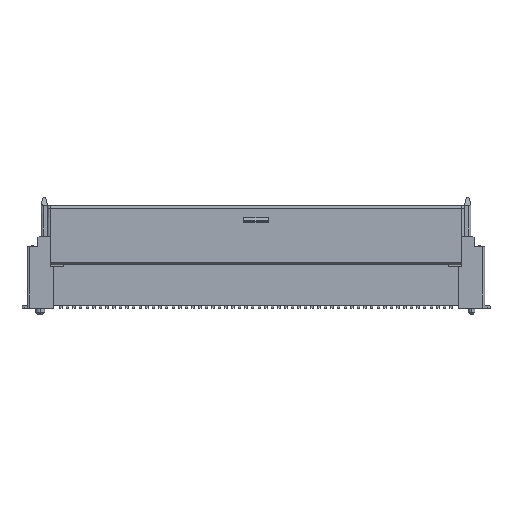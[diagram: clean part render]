
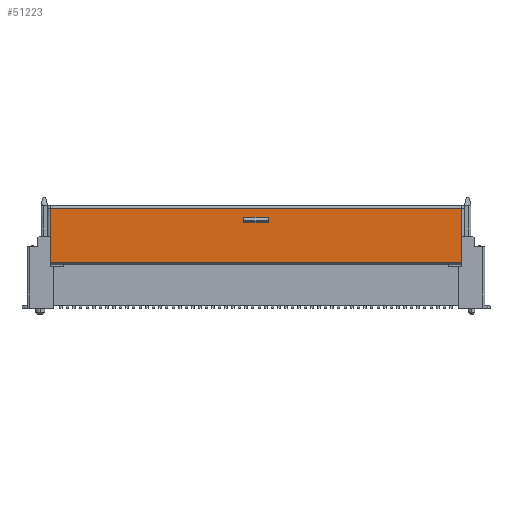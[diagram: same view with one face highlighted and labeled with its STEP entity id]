
A CAD part, top view. The second image highlights one B-rep face of the part: STEP entity #51223.
In plain terms, the highlighted planar face has unit normal (0, 0, 1).
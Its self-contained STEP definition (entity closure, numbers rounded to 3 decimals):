
#501 = VECTOR ( 'NONE', #14603, 1000. ) ;
#1696 = CARTESIAN_POINT ( 'NONE',  ( 24.9, 8.5, 2.23 ) ) ;
#3843 = CARTESIAN_POINT ( 'NONE',  ( -31.576, 8.7, 2.23 ) ) ;
#3991 = CARTESIAN_POINT ( 'NONE',  ( 1.5, 10.377, 2.23 ) ) ;
#4909 = DIRECTION ( 'NONE',  ( -1., 0., 0. ) ) ;
#5038 = LINE ( 'NONE', #72538, #37562 ) ;
#5883 = VERTEX_POINT ( 'NONE', #12045 ) ;
#6713 = VERTEX_POINT ( 'NONE', #29134 ) ;
#8549 = EDGE_CURVE ( 'NONE', #9608, #6713, #28123, .T. ) ;
#9608 = VERTEX_POINT ( 'NONE', #39623 ) ;
#9959 = CARTESIAN_POINT ( 'NONE',  ( 1.5, 10.923, 2.23 ) ) ;
#11150 = LINE ( 'NONE', #70215, #52465 ) ;
#11553 = EDGE_CURVE ( 'NONE', #65831, #9608, #15786, .T. ) ;
#12045 = CARTESIAN_POINT ( 'NONE',  ( -24.9, 12.1, 2.23 ) ) ;
#13480 = FACE_OUTER_BOUND ( 'NONE', #28319, .T. ) ;
#13531 = DIRECTION ( 'NONE',  ( 0., -1., 0. ) ) ;
#14603 = DIRECTION ( 'NONE',  ( 1., 0., 0. ) ) ;
#14874 = DIRECTION ( 'NONE',  ( 0., 1., 0. ) ) ;
#15786 = LINE ( 'NONE', #72507, #27217 ) ;
#16318 = DIRECTION ( 'NONE',  ( -1., 0., 0. ) ) ;
#16358 = DIRECTION ( 'NONE',  ( -1., 0., 0. ) ) ;
#17410 = ORIENTED_EDGE ( 'NONE', *, *, #69296, .T. ) ;
#19801 = EDGE_LOOP ( 'NONE', ( #55277, #43087, #65684, #34915 ) ) ;
#20005 = CARTESIAN_POINT ( 'NONE',  ( 24.9, 5.452, 2.23 ) ) ;
#20037 = EDGE_CURVE ( 'NONE', #59113, #41311, #37121, .T. ) ;
#20607 = DIRECTION ( 'NONE',  ( -1., 0., 0. ) ) ;
#21238 = AXIS2_PLACEMENT_3D ( 'NONE', #3843, #70434, #20607 ) ;
#21346 = DIRECTION ( 'NONE',  ( 0., 1., 0. ) ) ;
#24160 = VECTOR ( 'NONE', #4909, 1000. ) ;
#24877 = EDGE_CURVE ( 'NONE', #61723, #57222, #33099, .T. ) ;
#26344 = CARTESIAN_POINT ( 'NONE',  ( 24.9, 5.452, 2.23 ) ) ;
#27217 = VECTOR ( 'NONE', #16318, 1000. ) ;
#27843 = LINE ( 'NONE', #54395, #48031 ) ;
#28123 = LINE ( 'NONE', #71319, #42165 ) ;
#28319 = EDGE_LOOP ( 'NONE', ( #56224, #72073, #17410, #67711, #66293, #66217 ) ) ;
#29134 = CARTESIAN_POINT ( 'NONE',  ( -1.5, 10.923, 2.23 ) ) ;
#29537 = CARTESIAN_POINT ( 'NONE',  ( -24.9, 5.452, 2.23 ) ) ;
#31188 = PLANE ( 'NONE',  #21238 ) ;
#31392 = DIRECTION ( 'NONE',  ( 0., 1., 0. ) ) ;
#31581 = DIRECTION ( 'NONE',  ( 0., -1., 0. ) ) ;
#32641 = CARTESIAN_POINT ( 'NONE',  ( 24.9, 8.7, 2.23 ) ) ;
#33099 = LINE ( 'NONE', #20005, #501 ) ;
#33663 = VECTOR ( 'NONE', #31392, 1000. ) ;
#34915 = ORIENTED_EDGE ( 'NONE', *, *, #8549, .T. ) ;
#36489 = VECTOR ( 'NONE', #21346, 1000. ) ;
#37121 = LINE ( 'NONE', #43618, #41492 ) ;
#37562 = VECTOR ( 'NONE', #16358, 1000. ) ;
#37605 = EDGE_CURVE ( 'NONE', #45798, #61723, #11150, .T. ) ;
#39069 = EDGE_CURVE ( 'NONE', #41311, #5883, #66282, .T. ) ;
#39572 = VERTEX_POINT ( 'NONE', #51532 ) ;
#39623 = CARTESIAN_POINT ( 'NONE',  ( -1.5, 10.377, 2.23 ) ) ;
#41311 = VERTEX_POINT ( 'NONE', #56679 ) ;
#41492 = VECTOR ( 'NONE', #66212, 1000. ) ;
#42165 = VECTOR ( 'NONE', #14874, 1000. ) ;
#42428 = LINE ( 'NONE', #9959, #33663 ) ;
#43087 = ORIENTED_EDGE ( 'NONE', *, *, #60903, .F. ) ;
#43618 = CARTESIAN_POINT ( 'NONE',  ( 24.9, 8.7, 2.23 ) ) ;
#45798 = VERTEX_POINT ( 'NONE', #51970 ) ;
#48031 = VECTOR ( 'NONE', #31581, 1000. ) ;
#48835 = EDGE_CURVE ( 'NONE', #39572, #6713, #5038, .T. ) ;
#51223 = ADVANCED_FACE ( 'NONE', ( #59220, #13480 ), #31188, .F. ) ;
#51532 = CARTESIAN_POINT ( 'NONE',  ( 1.5, 10.923, 2.23 ) ) ;
#51970 = CARTESIAN_POINT ( 'NONE',  ( -24.9, 8.5, 2.23 ) ) ;
#52282 = LINE ( 'NONE', #32641, #36489 ) ;
#52465 = VECTOR ( 'NONE', #13531, 1000. ) ;
#54395 = CARTESIAN_POINT ( 'NONE',  ( -24.9, 8.7, 2.23 ) ) ;
#55277 = ORIENTED_EDGE ( 'NONE', *, *, #48835, .F. ) ;
#56224 = ORIENTED_EDGE ( 'NONE', *, *, #37605, .T. ) ;
#56679 = CARTESIAN_POINT ( 'NONE',  ( 24.9, 12.1, 2.23 ) ) ;
#57222 = VERTEX_POINT ( 'NONE', #26344 ) ;
#59113 = VERTEX_POINT ( 'NONE', #1696 ) ;
#59220 = FACE_BOUND ( 'NONE', #19801, .T. ) ;
#60903 = EDGE_CURVE ( 'NONE', #65831, #39572, #42428, .T. ) ;
#61671 = CARTESIAN_POINT ( 'NONE',  ( -31.576, 12.1, 2.23 ) ) ;
#61723 = VERTEX_POINT ( 'NONE', #29537 ) ;
#65684 = ORIENTED_EDGE ( 'NONE', *, *, #11553, .T. ) ;
#65831 = VERTEX_POINT ( 'NONE', #3991 ) ;
#66212 = DIRECTION ( 'NONE',  ( 0., 1., 0. ) ) ;
#66217 = ORIENTED_EDGE ( 'NONE', *, *, #68323, .T. ) ;
#66282 = LINE ( 'NONE', #61671, #24160 ) ;
#66293 = ORIENTED_EDGE ( 'NONE', *, *, #39069, .T. ) ;
#67711 = ORIENTED_EDGE ( 'NONE', *, *, #20037, .T. ) ;
#68323 = EDGE_CURVE ( 'NONE', #5883, #45798, #27843, .T. ) ;
#69296 = EDGE_CURVE ( 'NONE', #57222, #59113, #52282, .T. ) ;
#70215 = CARTESIAN_POINT ( 'NONE',  ( -24.9, 8.7, 2.23 ) ) ;
#70434 = DIRECTION ( 'NONE',  ( 0., 0., -1. ) ) ;
#71319 = CARTESIAN_POINT ( 'NONE',  ( -1.5, 10.923, 2.23 ) ) ;
#72073 = ORIENTED_EDGE ( 'NONE', *, *, #24877, .T. ) ;
#72507 = CARTESIAN_POINT ( 'NONE',  ( 1.5, 10.377, 2.23 ) ) ;
#72538 = CARTESIAN_POINT ( 'NONE',  ( 1.5, 10.923, 2.23 ) ) ;
